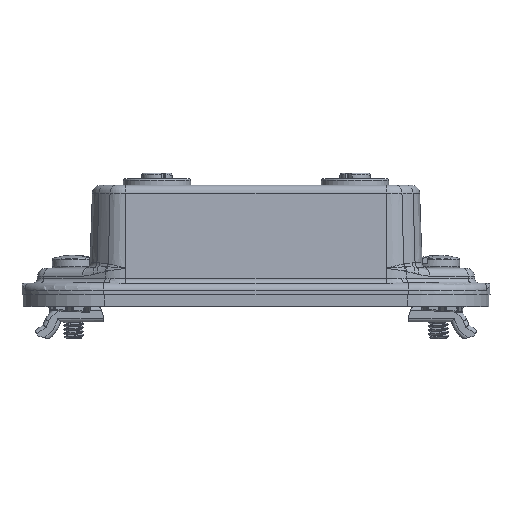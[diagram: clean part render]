
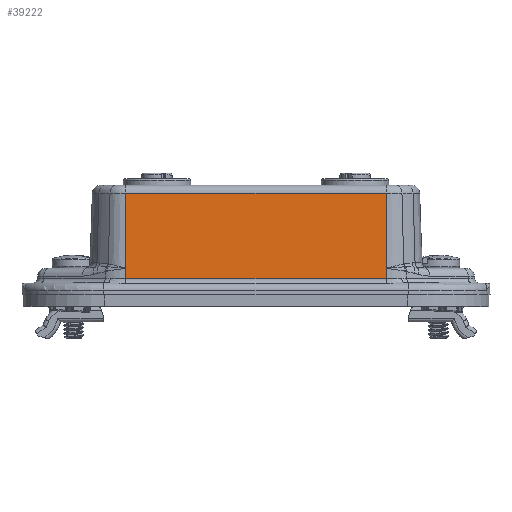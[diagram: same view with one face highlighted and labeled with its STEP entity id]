
A CAD part, top view. The second image highlights one B-rep face of the part: STEP entity #39222.
In plain terms, the highlighted planar face has unit normal (0, 0.035, 0.999).
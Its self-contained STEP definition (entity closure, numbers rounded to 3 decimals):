
#2396=LINE('',#94234,#4075);
#2424=LINE('',#95676,#4103);
#2433=LINE('',#95734,#4112);
#2441=LINE('',#95749,#4120);
#2445=LINE('',#95761,#4124);
#2446=LINE('',#95762,#4125);
#4075=VECTOR('',#52376,1000.);
#4103=VECTOR('',#52730,1000.);
#4112=VECTOR('',#52809,1000.);
#4120=VECTOR('',#52831,1000.);
#4124=VECTOR('',#52847,1000.);
#4125=VECTOR('',#52848,1000.);
#5939=PLANE('',#43242);
#8390=FACE_OUTER_BOUND('',#11005,.T.);
#11005=EDGE_LOOP('',(#31650,#31651,#31652,#31653,#31654,#31655));
#17096=VERTEX_POINT('',#94202);
#17100=VERTEX_POINT('',#94230);
#17147=VERTEX_POINT('',#94704);
#17181=VERTEX_POINT('',#95140);
#17228=VERTEX_POINT('',#95660);
#17232=VERTEX_POINT('',#95672);
#22138=EDGE_CURVE('',#17100,#17096,#2396,.T.);
#22345=EDGE_CURVE('',#17232,#17228,#2424,.T.);
#22375=EDGE_CURVE('',#17181,#17096,#2433,.T.);
#22383=EDGE_CURVE('',#17147,#17100,#2441,.T.);
#22389=EDGE_CURVE('',#17232,#17181,#2445,.T.);
#22390=EDGE_CURVE('',#17228,#17147,#2446,.T.);
#31650=ORIENTED_EDGE('',*,*,#22383,.T.);
#31651=ORIENTED_EDGE('',*,*,#22138,.T.);
#31652=ORIENTED_EDGE('',*,*,#22375,.F.);
#31653=ORIENTED_EDGE('',*,*,#22389,.F.);
#31654=ORIENTED_EDGE('',*,*,#22345,.T.);
#31655=ORIENTED_EDGE('',*,*,#22390,.T.);
#39222=ADVANCED_FACE('',(#8390),#5939,.T.);
#43242=AXIS2_PLACEMENT_3D('',#95760,#52845,#52846);
#52376=DIRECTION('',(1.,0.,0.));
#52730=DIRECTION('',(-1.,0.,0.));
#52809=DIRECTION('',(0.,-0.999,0.035));
#52831=DIRECTION('',(0.,-0.999,0.035));
#52845=DIRECTION('center_axis',(0.,0.035,0.999));
#52846=DIRECTION('ref_axis',(0.,-0.999,0.035));
#52847=DIRECTION('',(0.,-0.999,0.035));
#52848=DIRECTION('',(0.,-0.999,0.035));
#94202=CARTESIAN_POINT('',(34.045,-6.988,20.212));
#94230=CARTESIAN_POINT('',(-36.726,-6.988,20.212));
#94234=CARTESIAN_POINT('',(-106.78,-6.988,20.212));
#94704=CARTESIAN_POINT('',(-36.726,-4.076,20.11));
#95140=CARTESIAN_POINT('',(34.045,-4.076,20.11));
#95660=CARTESIAN_POINT('',(-36.726,16.326,19.398));
#95672=CARTESIAN_POINT('',(34.045,16.326,19.398));
#95676=CARTESIAN_POINT('',(-106.78,16.326,19.398));
#95734=CARTESIAN_POINT('',(34.045,-8.076,20.25));
#95749=CARTESIAN_POINT('',(-36.726,-8.076,20.25));
#95760=CARTESIAN_POINT('Origin',(-106.78,-8.076,20.25));
#95761=CARTESIAN_POINT('',(34.045,-8.076,20.25));
#95762=CARTESIAN_POINT('',(-36.726,-8.076,20.25));
